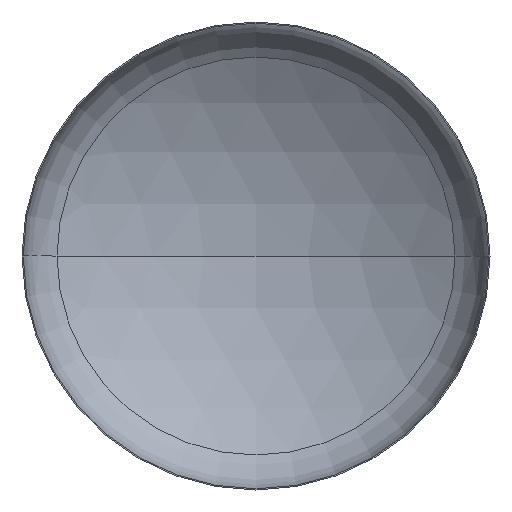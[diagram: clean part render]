
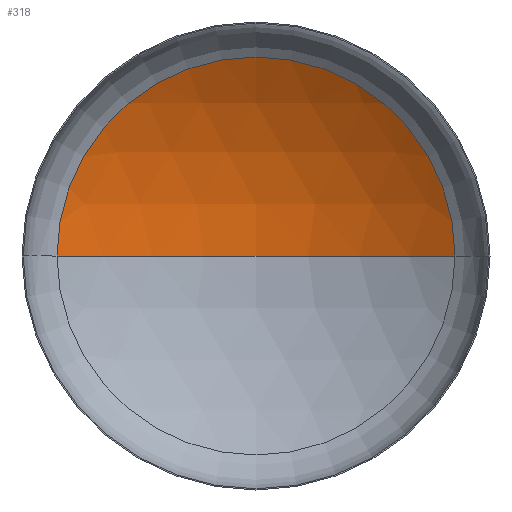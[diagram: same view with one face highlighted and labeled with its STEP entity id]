
A CAD part, front view. The second image highlights one B-rep face of the part: STEP entity #318.
In plain terms, the highlighted spherical face has radius 3600 mm.
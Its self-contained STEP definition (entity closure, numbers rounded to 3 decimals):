
#7 = DIRECTION ( 'NONE',  ( -1., 0., 0. ) ) ;
#8 = DIRECTION ( 'NONE',  ( 0., 0., -1. ) ) ;
#21 = AXIS2_PLACEMENT_3D ( 'NONE', #32, #57, #55 ) ;
#32 = CARTESIAN_POINT ( 'NONE',  ( 0., -2420.709, 0. ) ) ;
#55 = DIRECTION ( 'NONE',  ( -1., 0., 0. ) ) ;
#57 = DIRECTION ( 'NONE',  ( 0., 0., -1. ) ) ;
#81 = AXIS2_PLACEMENT_3D ( 'NONE', #127, #341, #372 ) ;
#87 = AXIS2_PLACEMENT_3D ( 'NONE', #168, #8, #7 ) ;
#94 = AXIS2_PLACEMENT_3D ( 'NONE', #122, #240, #317 ) ;
#118 = CARTESIAN_POINT ( 'NONE',  ( 1913.391, 628.707, 0. ) ) ;
#122 = CARTESIAN_POINT ( 'NONE',  ( 0., 628.707, 0. ) ) ;
#124 = FACE_OUTER_BOUND ( 'NONE', #206, .T. ) ;
#127 = CARTESIAN_POINT ( 'NONE',  ( 0., -2420.709, 0. ) ) ;
#145 = CARTESIAN_POINT ( 'NONE',  ( -1913.391, 628.707, 0. ) ) ;
#168 = CARTESIAN_POINT ( 'NONE',  ( 0., -2420.709, 0. ) ) ;
#199 = ORIENTED_EDGE ( 'NONE', *, *, #220, .T. ) ;
#206 = EDGE_LOOP ( 'NONE', ( #248, #199, #409 ) ) ;
#215 = EDGE_CURVE ( 'NONE', #216, #223, #378, .T. ) ;
#216 = VERTEX_POINT ( 'NONE', #118 ) ;
#220 = EDGE_CURVE ( 'NONE', #364, #216, #305, .T. ) ;
#223 = VERTEX_POINT ( 'NONE', #145 ) ;
#226 = EDGE_CURVE ( 'NONE', #364, #223, #233, .T. ) ;
#233 = CIRCLE ( 'NONE', #81, 3600. ) ;
#240 = DIRECTION ( 'NONE',  ( 0., -1., 0. ) ) ;
#248 = ORIENTED_EDGE ( 'NONE', *, *, #226, .F. ) ;
#270 = CARTESIAN_POINT ( 'NONE',  ( 0., 1179.291, 0. ) ) ;
#283 = SPHERICAL_SURFACE ( 'NONE', #21, 3600. ) ;
#305 = CIRCLE ( 'NONE', #87, 3600. ) ;
#317 = DIRECTION ( 'NONE',  ( 1., 0., 0. ) ) ;
#318 = ADVANCED_FACE ( 'NONE', ( #124 ), #283, .F. ) ;
#341 = DIRECTION ( 'NONE',  ( 0., 0., 1. ) ) ;
#364 = VERTEX_POINT ( 'NONE', #270 ) ;
#372 = DIRECTION ( 'NONE',  ( 1., 0., 0. ) ) ;
#378 = CIRCLE ( 'NONE', #94, 1913.391 ) ;
#409 = ORIENTED_EDGE ( 'NONE', *, *, #215, .T. ) ;
